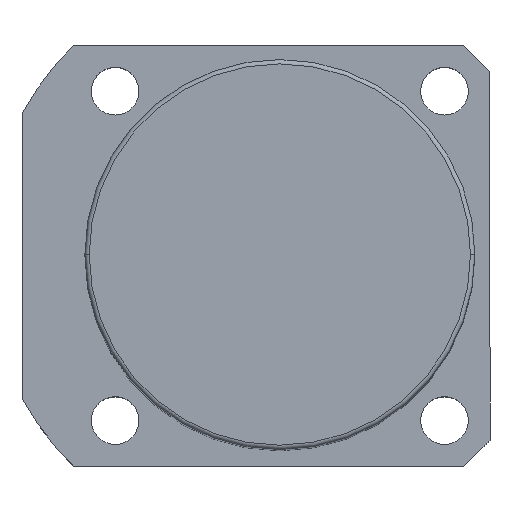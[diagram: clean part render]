
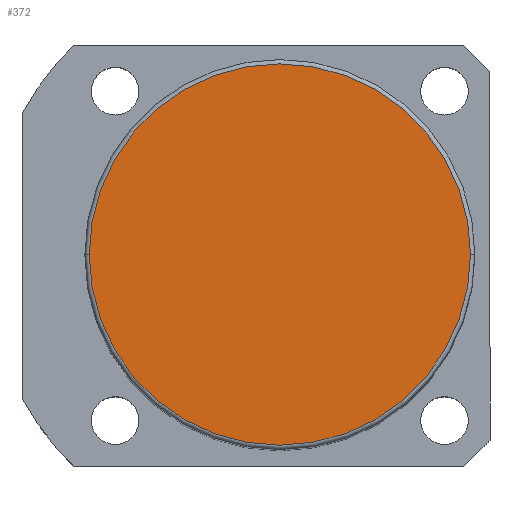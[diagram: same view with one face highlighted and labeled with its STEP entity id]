
A CAD part, top view. The second image highlights one B-rep face of the part: STEP entity #372.
In plain terms, the highlighted planar face has unit normal (0, 0, 1).
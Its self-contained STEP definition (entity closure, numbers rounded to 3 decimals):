
#29 = DIRECTION ( 'NONE',  ( 0., 0., 1. ) ) ;
#152 = DIRECTION ( 'NONE',  ( 0., 0., 1. ) ) ;
#372 = ADVANCED_FACE ( 'NONE', ( #421 ), #1389, .T. ) ;
#421 = FACE_OUTER_BOUND ( 'NONE', #564, .T. ) ;
#538 = CARTESIAN_POINT ( 'NONE',  ( 44., 0., 191.5 ) ) ;
#564 = EDGE_LOOP ( 'NONE', ( #1025, #738 ) ) ;
#602 = DIRECTION ( 'NONE',  ( 1., 0., 0. ) ) ;
#659 = AXIS2_PLACEMENT_3D ( 'NONE', #758, #152, #1841 ) ;
#738 = ORIENTED_EDGE ( 'NONE', *, *, #1327, .T. ) ;
#758 = CARTESIAN_POINT ( 'NONE',  ( 0., 0., 191.5 ) ) ;
#832 = DIRECTION ( 'NONE',  ( 1., 0., 0. ) ) ;
#1025 = ORIENTED_EDGE ( 'NONE', *, *, #1102, .T. ) ;
#1059 = DIRECTION ( 'NONE',  ( 0., 0., 1. ) ) ;
#1075 = VERTEX_POINT ( 'NONE', #1181 ) ;
#1102 = EDGE_CURVE ( 'NONE', #1653, #1075, #1962, .T. ) ;
#1181 = CARTESIAN_POINT ( 'NONE',  ( -44., 0., 191.5 ) ) ;
#1247 = CARTESIAN_POINT ( 'NONE',  ( 0., 0., 191.5 ) ) ;
#1327 = EDGE_CURVE ( 'NONE', #1075, #1653, #1515, .T. ) ;
#1389 = PLANE ( 'NONE',  #1541 ) ;
#1515 = CIRCLE ( 'NONE', #1923, 44. ) ;
#1541 = AXIS2_PLACEMENT_3D ( 'NONE', #1845, #1059, #602 ) ;
#1653 = VERTEX_POINT ( 'NONE', #538 ) ;
#1841 = DIRECTION ( 'NONE',  ( 1., 0., 0. ) ) ;
#1845 = CARTESIAN_POINT ( 'NONE',  ( 0., 0., 191.5 ) ) ;
#1923 = AXIS2_PLACEMENT_3D ( 'NONE', #1247, #29, #832 ) ;
#1962 = CIRCLE ( 'NONE', #659, 44. ) ;
